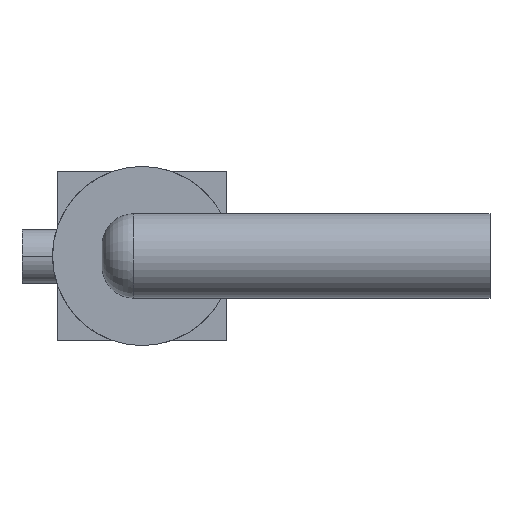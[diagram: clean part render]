
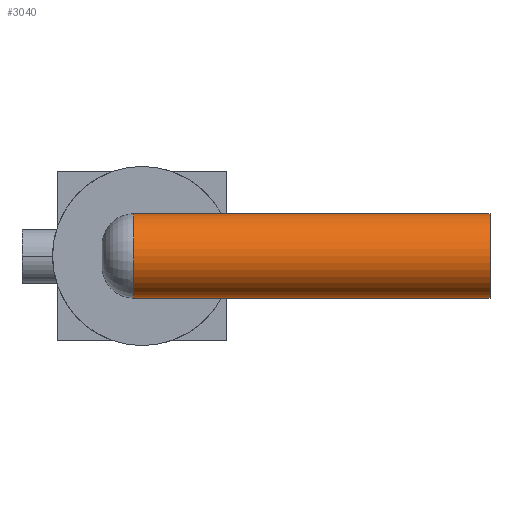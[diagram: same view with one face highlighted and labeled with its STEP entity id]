
A CAD part, top view. The second image highlights one B-rep face of the part: STEP entity #3040.
In plain terms, the highlighted cylindrical face has radius 20 mm (diameter 40 mm), a partial arc.
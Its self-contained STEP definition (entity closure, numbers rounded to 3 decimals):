
#1390=CARTESIAN_POINT('',(-13.,-98.995,
-70.711));
#1400=VERTEX_POINT('',#1390);
#2490=CARTESIAN_POINT('',(-36.,-84.853,
-84.853));
#2500=DIRECTION('',(-1.,0.,0.));
#2510=DIRECTION('',(0.,0.707,-0.707));
#2520=AXIS2_PLACEMENT_3D('',#2490,#2500,#2510);
#2530=CYLINDRICAL_SURFACE('',#2520,20.);
#2540=CARTESIAN_POINT('',(-13.,-84.853,
-84.853));
#2550=DIRECTION('',(-1.,0.,0.));
#2560=DIRECTION('',(0.,0.707,0.707));
#2570=AXIS2_PLACEMENT_3D('',#2540,#2550,#2560);
#2580=CIRCLE('',#2570,20.);
#2590=CARTESIAN_POINT('',(-13.,-70.711,
-98.995));
#2600=VERTEX_POINT('',#2590);
#2610=EDGE_CURVE('',#2600,#1400,#2580,.T.);
#2620=ORIENTED_EDGE('',*,*,#2610,.T.);
#2630=CARTESIAN_POINT('',(-36.,-70.711,
-98.995));
#2640=DIRECTION('',(-1.,0.,0.));
#2650=VECTOR('',#2640,1.);
#2660=LINE('',#2630,#2650);
#2670=CARTESIAN_POINT('',(-116.,-70.711,
-98.995));
#2680=VERTEX_POINT('',#2670);
#2690=EDGE_CURVE('',#2600,#2680,#2660,.T.);
#2700=ORIENTED_EDGE('',*,*,#2690,.F.);
#2710=CARTESIAN_POINT('',(-36.,-70.711,
-98.995));
#2720=DIRECTION('',(-1.,0.,0.));
#2730=VECTOR('',#2720,1.);
#2740=LINE('',#2710,#2730);
#2750=CARTESIAN_POINT('',(-182.,-70.711,
-98.995));
#2760=VERTEX_POINT('',#2750);
#2770=EDGE_CURVE('',#2680,#2760,#2740,.T.);
#2780=ORIENTED_EDGE('',*,*,#2770,.F.);
#2790=CARTESIAN_POINT('',(-182.,-84.853,
-84.853));
#2800=DIRECTION('',(-1.,0.,0.));
#2810=DIRECTION('',(0.,0.707,-0.707));
#2820=AXIS2_PLACEMENT_3D('',#2790,#2800,#2810);
#2830=CIRCLE('',#2820,20.);
#2840=CARTESIAN_POINT('',(-182.,-98.995,
-70.711));
#2850=VERTEX_POINT('',#2840);
#2860=EDGE_CURVE('',#2760,#2850,#2830,.T.);
#2870=ORIENTED_EDGE('',*,*,#2860,.F.);
#2880=CARTESIAN_POINT('',(-36.,-98.995,
-70.711));
#2890=DIRECTION('',(-1.,0.,0.));
#2900=VECTOR('',#2890,1.);
#2910=LINE('',#2880,#2900);
#2920=CARTESIAN_POINT('',(-116.,-98.995,
-70.711));
#2930=VERTEX_POINT('',#2920);
#2940=EDGE_CURVE('',#2930,#2850,#2910,.T.);
#2950=ORIENTED_EDGE('',*,*,#2940,.T.);
#2960=CARTESIAN_POINT('',(-36.,-98.995,
-70.711));
#2970=DIRECTION('',(-1.,0.,0.));
#2980=VECTOR('',#2970,1.);
#2990=LINE('',#2960,#2980);
#3000=EDGE_CURVE('',#1400,#2930,#2990,.T.);
#3010=ORIENTED_EDGE('',*,*,#3000,.T.);
#3020=EDGE_LOOP('',(#3010,#2950,#2870,#2780,#2700,#2620));
#3030=FACE_OUTER_BOUND('',#3020,.T.);
#3040=ADVANCED_FACE('',(#3030),#2530,.T.);
